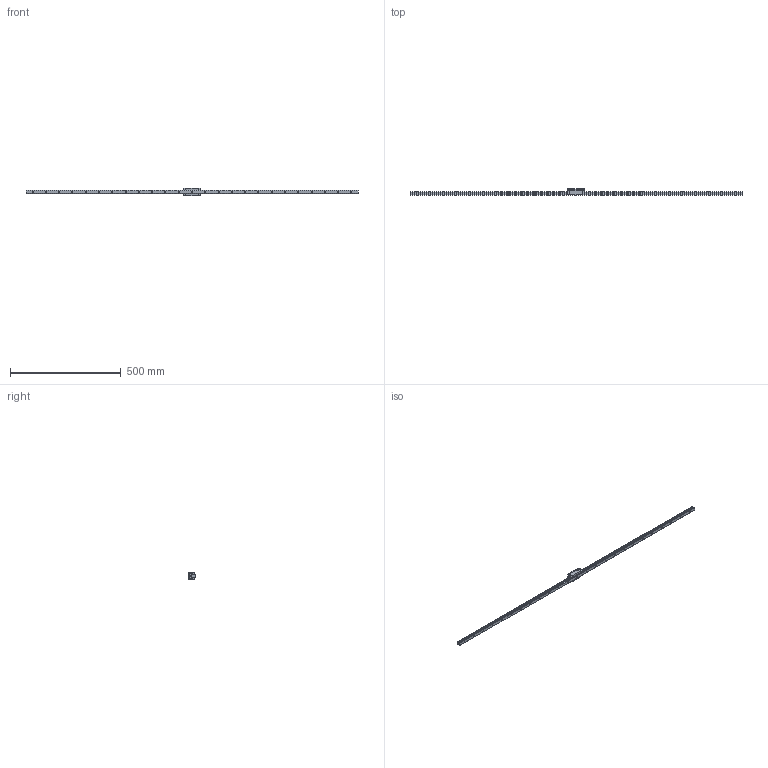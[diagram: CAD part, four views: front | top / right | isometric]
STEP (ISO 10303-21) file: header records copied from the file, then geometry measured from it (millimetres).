
FILE_DESCRIPTION( ( 'STEP AP214' ), '1' );
FILE_NAME( 'p:/temp/worker_115/temp/exporttempdir_4808_106_GuH2J/format_0/1xBM S 15-N-G3-KC-R1-1500-30-30-CN 1xBM W 15-D-G3-V0-R1-CN-S99-LN-( -1).stp', '2020-06-09T09:11:27', ( 'License CC BY-ND 4.0' ), ( 'CADENAS' ), ' ', 'PARTsolutions', ' ' );
FILE_SCHEMA( ( 'AUTOMOTIVE_DESIGN { 1 0 10303 214 1 1 1 1 }' ) );
Length unit declared in the file: millimetre
Products named in the file (4): 1xBM S 15-N-G3-KC-R1-1500-30-30-CN 1xBM W 15-D-G3-V0-R1-CN-S99-LN-( -1); _1xBM S 15-N-G3-KC-R1-1500-30-30-CN-(1); _1 BM W 15-D-G3-V0-R1-CN-S10-LN; _STB 15-D(0)
Assembly tree (4 placements, depth 2):
  1xBM S 15-N-G3-KC-R1-1500-30-30-CN 1xBM W 15-D-G3-V0-R1-CN-S99-LN-( -1)
    _1xBM S 15-N-G3-KC-R1-1500-30-30-CN-(1)
    _1 BM W 15-D-G3-V0-R1-CN-S10-LN
    _STB 15-D(0)  x2
Bounding box: 1500 x 28 x 34 mm (x, y, z)
Volume: 315704.7 mm3; surface area: 114549.2 mm2
Topology: 4 solids, 4 shells, 421 faces, 1064 edges, 700 vertices
Faces by surface type: plane 223, cylinder 172, cone 22, torus 4
Full cylindrical faces by diameter (mm): 2.459 x8, 2.46 x2, 3.1 x4, 3.242 x6, 4.5 x29, 5 x4, 6 x2, 8 x27
Entity records: 11446 total; most frequent: DIRECTION 1586, CARTESIAN_POINT 1489, ORIENTED_EDGE 1336, EDGE_CURVE 668, AXIS2_PLACEMENT_3D 601, VERTEX_POINT 504, EDGE_LOOP 498, FACE_OUTER_BOUND 386
